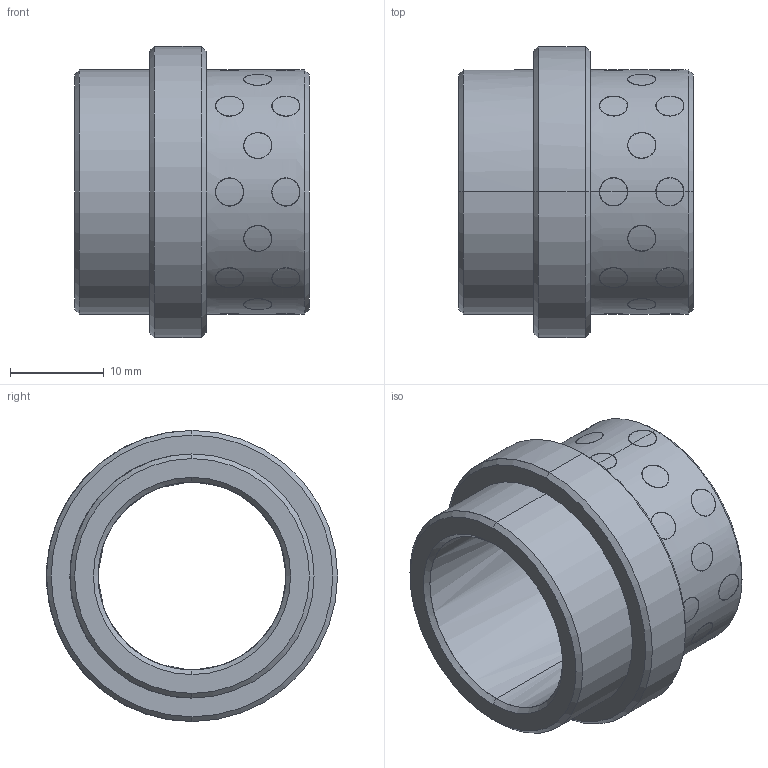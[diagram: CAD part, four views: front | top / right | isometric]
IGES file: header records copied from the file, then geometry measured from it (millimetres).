
Start section: START RECORD GO HERE.
Global section: file name: G31220017.igs; native system: DASSAULT SYSTEMES CATIA V5 R20 - www.3ds.com; preprocessor: CATIA Version 5 Release 20 ; author: r.borello; organization: CFTORINO; date: 20190624.121657; units: millimetre
Bounding box: 25 x 31 x 31 mm (x, y, z)
Surface area: 5786.3 mm2 (no closed solid volume)
Topology: 0 solids, 0 shells, 176 faces, 768 edges, 768 vertices
Faces by surface type: revolution 172, plane 4
